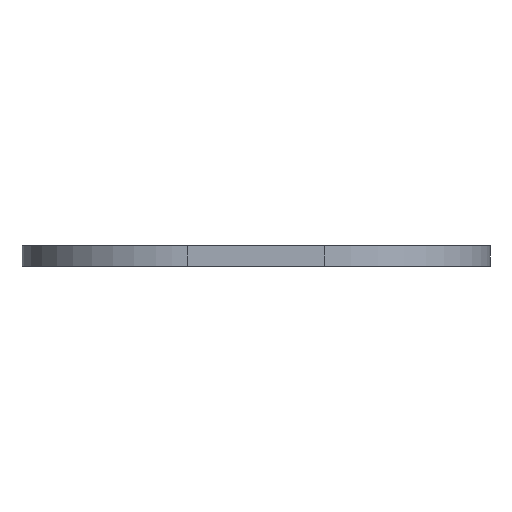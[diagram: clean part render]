
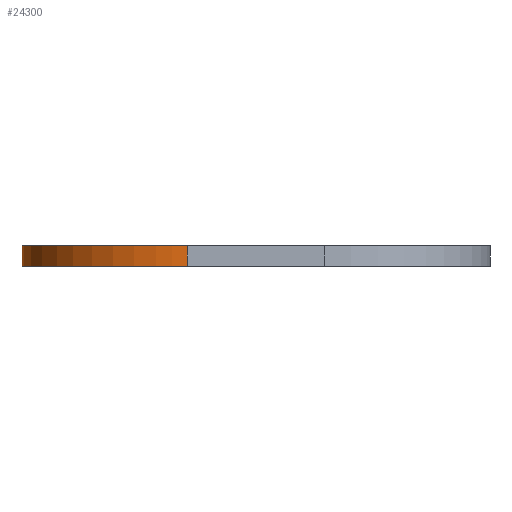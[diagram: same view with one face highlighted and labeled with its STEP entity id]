
A CAD part, left-side view. The second image highlights one B-rep face of the part: STEP entity #24300.
In plain terms, the highlighted free-form (B-spline) face has degree [2, 1] with [3, 2] control points.
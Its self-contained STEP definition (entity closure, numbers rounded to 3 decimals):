
#110 = CARTESIAN_POINT ('', (-91.856, 26.904, 0.));
#120 = VERTEX_POINT ('', #110);
#180 = CARTESIAN_POINT ('', (-26.904, 91.856, 0.));
#190 = VERTEX_POINT ('', #180);
#200 = CARTESIAN_POINT ('', (-26.904, 91.856, 0.));
#210 = CARTESIAN_POINT ('', (-91.856, 91.856, 0.));
#220 = CARTESIAN_POINT ('', (-91.856, 26.904, 0.));
#230 = (
   BOUNDED_CURVE ()
   B_SPLINE_CURVE (2, (#200, #210, #220), .UNSPECIFIED., .F., .U.)
   B_SPLINE_CURVE_WITH_KNOTS ((3, 3), (178.302, 248.988), .UNSPECIFIED.)
   CURVE ()
   GEOMETRIC_REPRESENTATION_ITEM ()
   RATIONAL_B_SPLINE_CURVE ((1., 0.707, 1.))
   REPRESENTATION_ITEM ('')
);
#240 = EDGE_CURVE ('', #190, #120, #230, .T.);
#6690 = CARTESIAN_POINT ('', (-26.904, 91.856, 8.));
#6700 = VERTEX_POINT ('', #6690);
#6760 = CARTESIAN_POINT ('', (-91.856, 26.904, 8.));
#6770 = VERTEX_POINT ('', #6760);
#6780 = CARTESIAN_POINT ('', (-26.904, 91.856, 8.));
#6790 = CARTESIAN_POINT ('', (-91.856, 91.856, 8.));
#6800 = CARTESIAN_POINT ('', (-91.856, 26.904, 8.));
#6810 = (
   BOUNDED_CURVE ()
   B_SPLINE_CURVE (2, (#6780, #6790, #6800), .UNSPECIFIED., .F., .U.)
   B_SPLINE_CURVE_WITH_KNOTS ((3, 3), (178.302, 248.988), .UNSPECIFIED.)
   CURVE ()
   GEOMETRIC_REPRESENTATION_ITEM ()
   RATIONAL_B_SPLINE_CURVE ((1., 0.707, 1.))
   REPRESENTATION_ITEM ('')
);
#6820 = EDGE_CURVE ('', #6700, #6770, #6810, .T.);
#24090 = ORIENTED_EDGE ('', *, *, #6820, .F.);
#24100 = CARTESIAN_POINT ('', (-26.904, 91.856, 0.));
#24110 = CARTESIAN_POINT ('', (-26.904, 91.856, 8.));
#24120 = B_SPLINE_CURVE_WITH_KNOTS ('', 1, (#24100, #24110), .UNSPECIFIED., .F., .U., (2, 2), (0., 1.), .UNSPECIFIED.);
#24130 = EDGE_CURVE ('', #190, #6700, #24120, .T.);
#24140 = ORIENTED_EDGE ('', *, *, #24130, .F.);
#24150 = ORIENTED_EDGE ('', *, *, #240, .T.);
#24160 = CARTESIAN_POINT ('', (-91.856, 26.904, 0.));
#24170 = CARTESIAN_POINT ('', (-91.856, 26.904, 8.));
#24180 = B_SPLINE_CURVE_WITH_KNOTS ('', 1, (#24160, #24170), .UNSPECIFIED., .F., .U., (2, 2), (0., 1.), .UNSPECIFIED.);
#24190 = EDGE_CURVE ('', #120, #6770, #24180, .T.);
#24200 = ORIENTED_EDGE ('', *, *, #24190, .T.);
#24210 = EDGE_LOOP ('', (#24090, #24140, #24150, #24200));
#24220 = FACE_OUTER_BOUND ('', #24210, .T.);
#24230 = CARTESIAN_POINT ('', (-26.904, 91.856, 0.));
#24240 = CARTESIAN_POINT ('', (-26.904, 91.856, 8.));
#24250 = CARTESIAN_POINT ('', (-91.856, 91.856, 0.));
#24260 = CARTESIAN_POINT ('', (-91.856, 91.856, 8.));
#24270 = CARTESIAN_POINT ('', (-91.856, 26.904, 0.));
#24280 = CARTESIAN_POINT ('', (-91.856, 26.904, 8.));
#24290 = (
   BOUNDED_SURFACE ()
   B_SPLINE_SURFACE (2, 1, ((#24230, #24240), (#24250, #24260), (#24270, #24280)), .UNSPECIFIED., .F., .F., .U.)
   B_SPLINE_SURFACE_WITH_KNOTS ((3, 3), (2, 2), (178.302, 248.988), (0., 1.), .UNSPECIFIED.)
   SURFACE ()
   GEOMETRIC_REPRESENTATION_ITEM ()
   RATIONAL_B_SPLINE_SURFACE (((1., 1.), (0.707, 0.707), (1., 1.)))
   REPRESENTATION_ITEM ('')
);
#24300 = ADVANCED_FACE ('', (#24220), #24290, .T.);
